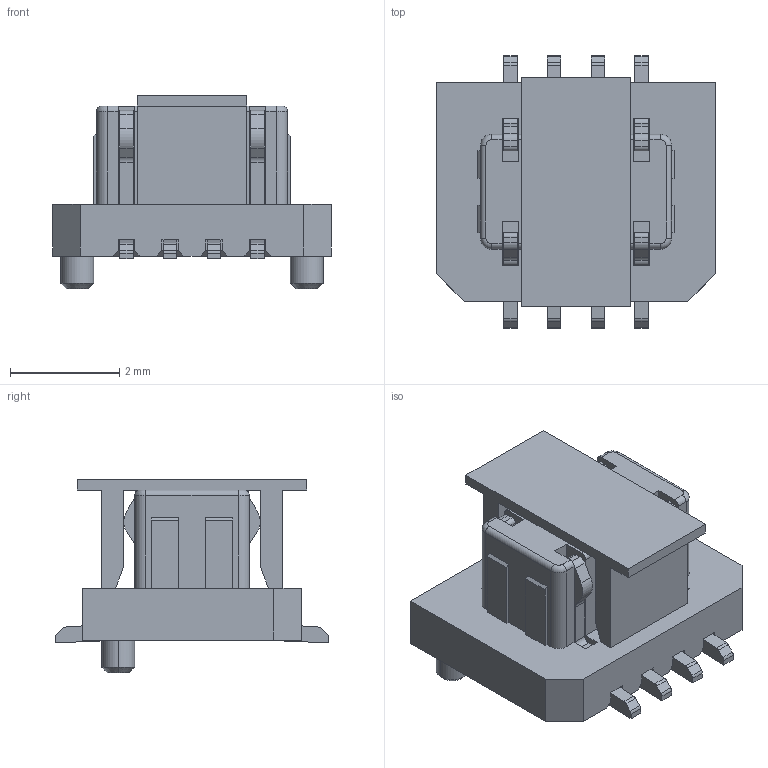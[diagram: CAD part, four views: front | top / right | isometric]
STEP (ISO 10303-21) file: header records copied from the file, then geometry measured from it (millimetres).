
FILE_DESCRIPTION(('CATIA V5 STEP Exchange'),'2;1');
FILE_NAME('F:\黄富鸿\板对板\PBB08B\公座\H2.8\带盖\HC-PBB08B-1-08-M-H2.8-XX-R-P-06 (BTB0.8 单槽 B型公座 立贴 带柱 编带+盖)-HCTL.stp','2026-01-28T09:34:49+00:00',('none'),('none'),'CATIA Version 5 Release 20 GA (IN-10)','CATIA V5 STEP AP203','none');
FILE_SCHEMA(('CONFIG_CONTROL_DESIGN'));
Length unit declared in the file: millimetre
Products named in the file (1): Part1
Bounding box: 5.1 x 5 x 3.55 mm (x, y, z)
Volume: 35.6 mm3; surface area: 193.4 mm2
Topology: 10 solids, 10 shells, 491 faces, 1424 edges, 940 vertices
Faces by surface type: plane 335, cylinder 148, cone 4, torus 4
Entity records: 15055 total; most frequent: ORIENTED_EDGE 2848, CARTESIAN_POINT 2697, DIRECTION 2088, EDGE_CURVE 1424, VECTOR 1120, LINE 1120, VERTEX_POINT 940, AXIS2_PLACEMENT_3D 637
